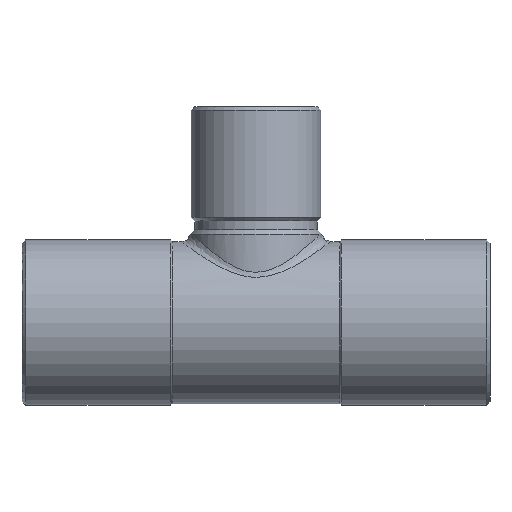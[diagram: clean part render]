
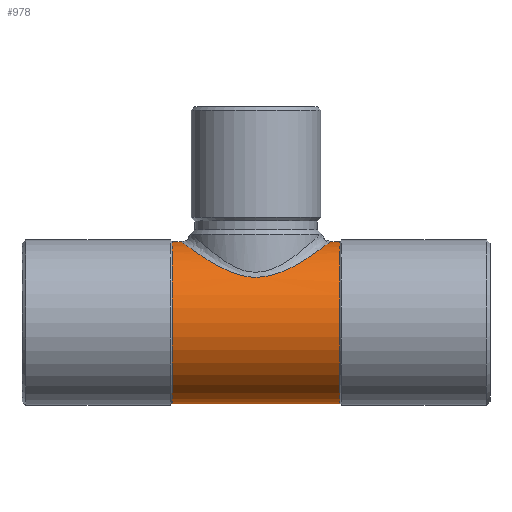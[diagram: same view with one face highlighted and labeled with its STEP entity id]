
A CAD part, top view. The second image highlights one B-rep face of the part: STEP entity #978.
In plain terms, the highlighted cylindrical face has radius 4.5 mm (diameter 9 mm), a partial arc.
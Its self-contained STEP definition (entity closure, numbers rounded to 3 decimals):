
#191=CARTESIAN_POINT('',(-4.648,4.5,0.0));
#192=VERTEX_POINT('',#191);
#208=CARTESIAN_POINT('',(-4.648,-4.5,0.));
#209=VERTEX_POINT('',#208);
#216=CARTESIAN_POINT('',(-4.648,0.,0.0));
#217=DIRECTION('',(1.0,0.0,0.0));
#218=DIRECTION('',(0.0,1.0,0.0));
#219=AXIS2_PLACEMENT_3D('',#216,#217,#218);
#220=CIRCLE('',#219,4.5);
#221=EDGE_CURVE('',#192,#209,#220,.T.);
#254=CARTESIAN_POINT('',(4.648,4.5,0.0));
#255=VERTEX_POINT('',#254);
#271=CARTESIAN_POINT('',(4.648,-4.5,0.));
#272=VERTEX_POINT('',#271);
#924=CARTESIAN_POINT('',(0.0,0.,0.0));
#925=DIRECTION('',(1.0,0.,0.0));
#926=DIRECTION('',(0.0,1.0,0.0));
#927=AXIS2_PLACEMENT_3D('',#924,#925,#926);
#928=CYLINDRICAL_SURFACE('',#927,4.5);
#929=CARTESIAN_POINT('',(-4.15,4.5,0.));
#930=VERTEX_POINT('',#929);
#931=CARTESIAN_POINT('',(-4.648,4.5,0.0));
#932=DIRECTION('',(1.0,0.0,0.0));
#933=VECTOR('',#932,0.498);
#934=LINE('',#931,#933);
#935=EDGE_CURVE('',#192,#930,#934,.T.);
#936=ORIENTED_EDGE('',*,*,#935,.F.);
#937=ORIENTED_EDGE('',*,*,#221,.T.);
#938=CARTESIAN_POINT('',(4.648,-4.5,0.));
#939=DIRECTION('',(-1.0,0.0,0.0));
#940=VECTOR('',#939,9.296);
#941=LINE('',#938,#940);
#942=EDGE_CURVE('',#272,#209,#941,.T.);
#943=ORIENTED_EDGE('',*,*,#942,.F.);
#944=CARTESIAN_POINT('',(4.648,0.,0.0));
#945=DIRECTION('',(-1.0,0.0,0.0));
#946=DIRECTION('',(0.0,1.0,0.0));
#947=AXIS2_PLACEMENT_3D('',#944,#945,#946);
#948=CIRCLE('',#947,4.5);
#949=EDGE_CURVE('',#272,#255,#948,.T.);
#950=ORIENTED_EDGE('',*,*,#949,.T.);
#951=CARTESIAN_POINT('',(4.15,4.5,0.));
#952=VERTEX_POINT('',#951);
#953=CARTESIAN_POINT('',(4.15,4.5,0.));
#954=DIRECTION('',(1.0,0.0,0.0));
#955=VECTOR('',#954,0.498);
#956=LINE('',#953,#955);
#957=EDGE_CURVE('',#952,#255,#956,.T.);
#958=ORIENTED_EDGE('',*,*,#957,.F.);
#959=CARTESIAN_POINT('',(-4.15,4.5,0.));
#960=CARTESIAN_POINT('',(-4.15,4.5,0.5));
#961=CARTESIAN_POINT('',(-4.035,4.413,0.999));
#962=CARTESIAN_POINT('',(-3.503,4.026,2.142));
#963=CARTESIAN_POINT('',(-2.972,3.641,2.7));
#964=CARTESIAN_POINT('',(-1.875,3.009,3.368));
#965=CARTESIAN_POINT('',(-1.36,2.746,3.569));
#966=CARTESIAN_POINT('',(-0.194,2.465,3.769));
#967=CARTESIAN_POINT('',(0.454,2.498,3.75));
#968=CARTESIAN_POINT('',(2.107,3.008,3.373));
#969=CARTESIAN_POINT('',(2.961,3.647,2.798));
#970=CARTESIAN_POINT('',(3.919,4.324,1.394));
#971=CARTESIAN_POINT('',(4.15,4.5,0.699));
#972=CARTESIAN_POINT('',(4.15,4.5,0.));
#973=B_SPLINE_CURVE_WITH_KNOTS('',3,(#959,#960,#961,#962,#963,#964,#965,#966,#967,#968,#969,#970,#971,#972),.UNSPECIFIED.,.F.,.U.,(4,2,2,2,2,2,4),(0.592,0.734,0.959,1.116,1.272,1.574,1.774),.UNSPECIFIED.);
#974=EDGE_CURVE('',#930,#952,#973,.T.);
#975=ORIENTED_EDGE('',*,*,#974,.F.);
#976=EDGE_LOOP('',(#936,#937,#943,#950,#958,#975));
#977=FACE_OUTER_BOUND('',#976,.T.);
#978=ADVANCED_FACE('',(#977),#928,.T.);
